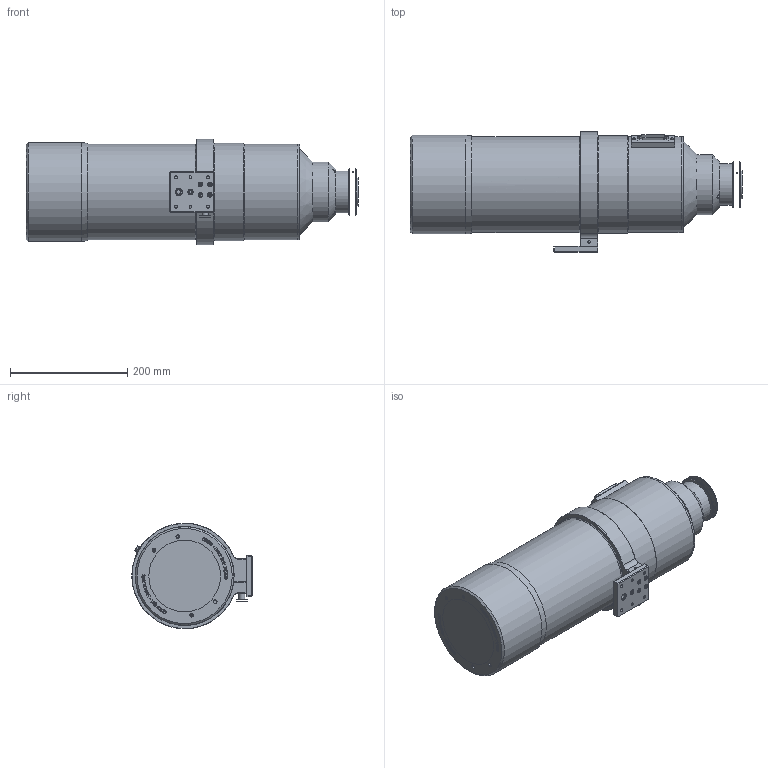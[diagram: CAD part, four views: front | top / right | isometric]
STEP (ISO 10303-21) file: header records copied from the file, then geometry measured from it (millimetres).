
FILE_DESCRIPTION((''),'2;1');
FILE_NAME('C:\Documents and Settings\tbosotti\Desktop\C0628_015.stp','2014-04-28T12:16:49',('tbosotti'),(''),'Autodesk Inventor 2010','Autodesk Inventor 2010','');
FILE_SCHEMA(('AUTOMOTIVE_DESIGN { 1 0 10303 214 1 1 1 1 }'));
Length unit declared in the file: millimetre
Products named in the file (2): C0628_015_000.iam (Livello di dettaglio sostituto1); C0628_015
Assembly tree (1 placements, depth 2):
  C0628_015_000.iam (Livello di dettaglio sostituto1)
    C0628_015
Bounding box: 565.2 x 205 x 179.92 mm (x, y, z)
Surface area: 588558 mm2 (no closed solid volume)
Topology: 0 solids, 46 shells, 129 faces, 2026 edges, 1927 vertices
Faces by surface type: plane 72, bspline 21, cylinder 20, cone 16
Full cylindrical faces by diameter (mm): 4.978 x1, 7.798 x1, 10 x1, 48 x1, 71 x1, 73.6 x1, 102 x1, 158 x1, 163 x3, 166 x1, 168 x1
Entity records: 18162 total; most frequent: CARTESIAN_POINT 7023, ORIENTED_EDGE 2076, EDGE_CURVE 1960, VERTEX_POINT 1908, DIRECTION 1649, AXIS2_PLACEMENT_3D 623, CIRCLE 512, VECTOR 403
